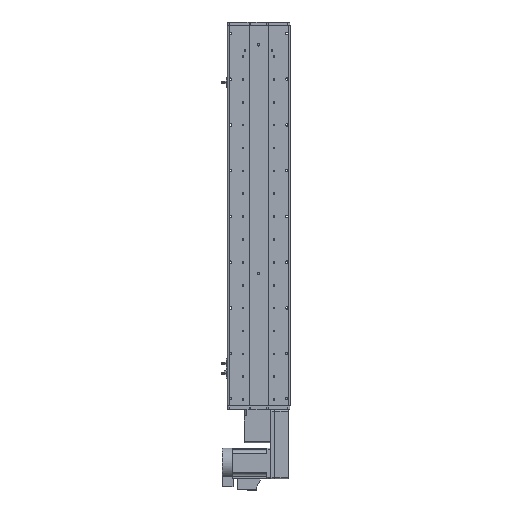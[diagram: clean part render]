
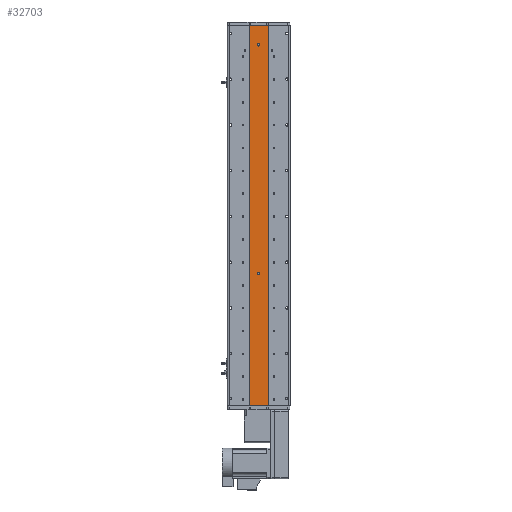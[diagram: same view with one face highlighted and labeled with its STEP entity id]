
A CAD part, front view. The second image highlights one B-rep face of the part: STEP entity #32703.
In plain terms, the highlighted planar face has unit normal (0, -1, 0).
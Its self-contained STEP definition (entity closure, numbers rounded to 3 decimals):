
#1377 = DIRECTION ( 'NONE',  ( 0., 0., -1. ) ) ;
#2053 = EDGE_CURVE ( 'NONE', #28374, #50700, #53692, .T. ) ;
#4756 = EDGE_CURVE ( 'NONE', #28374, #37794, #63390, .T. ) ;
#5223 = EDGE_CURVE ( 'NONE', #16064, #14573, #41814, .T. ) ;
#6278 = PLANE ( 'NONE',  #55828 ) ;
#6894 = AXIS2_PLACEMENT_3D ( 'NONE', #7385, #41900, #12356 ) ;
#7385 = CARTESIAN_POINT ( 'NONE',  ( 0., 1., -151.5 ) ) ;
#8050 = DIRECTION ( 'NONE',  ( 0., -1., 0. ) ) ;
#8141 = CARTESIAN_POINT ( 'NONE',  ( 25., 1., -498.5 ) ) ;
#9086 = ORIENTED_EDGE ( 'NONE', *, *, #57096, .T. ) ;
#9196 = CIRCLE ( 'NONE', #43751, 3. ) ;
#9505 = CARTESIAN_POINT ( 'NONE',  ( 0., 1., -154.5 ) ) ;
#9686 = ORIENTED_EDGE ( 'NONE', *, *, #4756, .T. ) ;
#12356 = DIRECTION ( 'NONE',  ( 0., 0., -1. ) ) ;
#12914 = AXIS2_PLACEMENT_3D ( 'NONE', #19205, #53713, #24194 ) ;
#14573 = VERTEX_POINT ( 'NONE', #45230 ) ;
#16064 = VERTEX_POINT ( 'NONE', #9505 ) ;
#16234 = DIRECTION ( 'NONE',  ( 0., 0., 1. ) ) ;
#18966 = CIRCLE ( 'NONE', #12914, 3. ) ;
#19132 = VECTOR ( 'NONE', #54656, 1000. ) ;
#19205 = CARTESIAN_POINT ( 'NONE',  ( 0., 1., 448.5 ) ) ;
#19277 = CIRCLE ( 'NONE', #6894, 3. ) ;
#21310 = EDGE_CURVE ( 'NONE', #50700, #28665, #63579, .T. ) ;
#24091 = ORIENTED_EDGE ( 'NONE', *, *, #26982, .F. ) ;
#24194 = DIRECTION ( 'NONE',  ( 0., 0., -1. ) ) ;
#24553 = FACE_BOUND ( 'NONE', #63315, .T. ) ;
#25244 = ORIENTED_EDGE ( 'NONE', *, *, #32454, .F. ) ;
#26492 = EDGE_LOOP ( 'NONE', ( #24091, #25244 ) ) ;
#26929 = VERTEX_POINT ( 'NONE', #43382 ) ;
#26982 = EDGE_CURVE ( 'NONE', #41210, #26929, #18966, .T. ) ;
#27222 = AXIS2_PLACEMENT_3D ( 'NONE', #60411, #30892, #1377 ) ;
#28374 = VERTEX_POINT ( 'NONE', #39832 ) ;
#28665 = VERTEX_POINT ( 'NONE', #8141 ) ;
#30892 = DIRECTION ( 'NONE',  ( 0., -1., 0. ) ) ;
#31389 = DIRECTION ( 'NONE',  ( 0., 0., -1. ) ) ;
#32208 = ORIENTED_EDGE ( 'NONE', *, *, #2053, .F. ) ;
#32454 = EDGE_CURVE ( 'NONE', #26929, #41210, #9196, .T. ) ;
#32703 = ADVANCED_FACE ( 'NONE', ( #50828, #24553, #62339 ), #6278, .F. ) ;
#33253 = CARTESIAN_POINT ( 'NONE',  ( 25., 1., 498.5 ) ) ;
#37544 = CARTESIAN_POINT ( 'NONE',  ( 0., 1., 448.5 ) ) ;
#37777 = DIRECTION ( 'NONE',  ( 1., 0., 0. ) ) ;
#37794 = VERTEX_POINT ( 'NONE', #40112 ) ;
#38271 = ORIENTED_EDGE ( 'NONE', *, *, #21310, .F. ) ;
#38519 = CARTESIAN_POINT ( 'NONE',  ( 25., 1., 498.5 ) ) ;
#39832 = CARTESIAN_POINT ( 'NONE',  ( -25., 1., 498.5 ) ) ;
#39971 = CARTESIAN_POINT ( 'NONE',  ( 25., 1., -498.5 ) ) ;
#40112 = CARTESIAN_POINT ( 'NONE',  ( -25., 1., -498.5 ) ) ;
#40583 = CARTESIAN_POINT ( 'NONE',  ( 0., 1., 445.5 ) ) ;
#40767 = CARTESIAN_POINT ( 'NONE',  ( 25., 1., 498.5 ) ) ;
#41210 = VERTEX_POINT ( 'NONE', #40583 ) ;
#41814 = CIRCLE ( 'NONE', #27222, 3. ) ;
#41900 = DIRECTION ( 'NONE',  ( 0., -1., 0. ) ) ;
#42542 = DIRECTION ( 'NONE',  ( 0., 0., -1. ) ) ;
#42548 = CARTESIAN_POINT ( 'NONE',  ( 25., 1., 498.5 ) ) ;
#43382 = CARTESIAN_POINT ( 'NONE',  ( 0., 1., 451.5 ) ) ;
#43751 = AXIS2_PLACEMENT_3D ( 'NONE', #37544, #8050, #42542 ) ;
#45230 = CARTESIAN_POINT ( 'NONE',  ( 0., 1., -148.5 ) ) ;
#45724 = DIRECTION ( 'NONE',  ( 0., 1., 0. ) ) ;
#49194 = EDGE_LOOP ( 'NONE', ( #9086, #38271, #32208, #9686 ) ) ;
#50368 = VECTOR ( 'NONE', #31389, 1000. ) ;
#50545 = VECTOR ( 'NONE', #53096, 1000. ) ;
#50700 = VERTEX_POINT ( 'NONE', #38519 ) ;
#50828 = FACE_BOUND ( 'NONE', #26492, .T. ) ;
#51038 = CARTESIAN_POINT ( 'NONE',  ( -25., 1., 498.5 ) ) ;
#52171 = VECTOR ( 'NONE', #37777, 1000. ) ;
#53096 = DIRECTION ( 'NONE',  ( 0., 0., -1. ) ) ;
#53692 = LINE ( 'NONE', #42548, #52171 ) ;
#53713 = DIRECTION ( 'NONE',  ( 0., -1., 0. ) ) ;
#54656 = DIRECTION ( 'NONE',  ( 1., 0., 0. ) ) ;
#55828 = AXIS2_PLACEMENT_3D ( 'NONE', #40767, #45724, #16234 ) ;
#56960 = LINE ( 'NONE', #39971, #19132 ) ;
#57096 = EDGE_CURVE ( 'NONE', #37794, #28665, #56960, .T. ) ;
#58324 = ORIENTED_EDGE ( 'NONE', *, *, #62178, .F. ) ;
#59068 = ORIENTED_EDGE ( 'NONE', *, *, #5223, .F. ) ;
#60411 = CARTESIAN_POINT ( 'NONE',  ( 0., 1., -151.5 ) ) ;
#62178 = EDGE_CURVE ( 'NONE', #14573, #16064, #19277, .T. ) ;
#62339 = FACE_OUTER_BOUND ( 'NONE', #49194, .T. ) ;
#63315 = EDGE_LOOP ( 'NONE', ( #59068, #58324 ) ) ;
#63390 = LINE ( 'NONE', #51038, #50368 ) ;
#63579 = LINE ( 'NONE', #33253, #50545 ) ;
